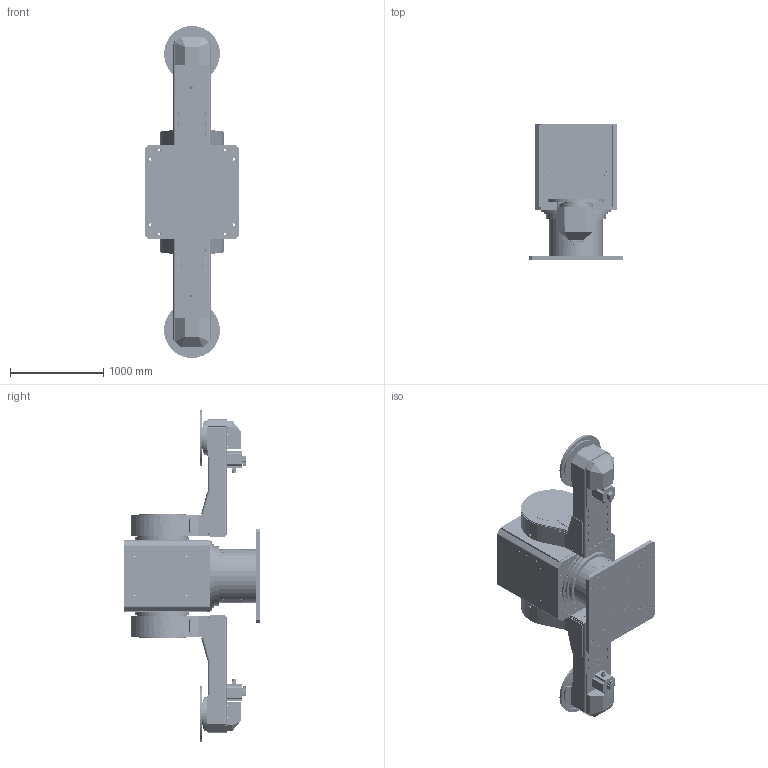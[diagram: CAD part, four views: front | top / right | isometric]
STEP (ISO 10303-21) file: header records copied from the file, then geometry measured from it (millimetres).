
FILE_DESCRIPTION (( 'STEP AP214' ), '1' );
FILE_NAME ('140679red.STEP', '2008-10-27T12:33:57', ( ' ' ), ( ' ' ), 'SwSTEP 2.0', 'SolidWorks 2008', '' );
FILE_SCHEMA (( 'AUTOMOTIVE_DESIGN' ));
Length unit declared in the file: millimetre
Products named in the file (5): L1000red_Standard; 140679red; 126538red_Standard; 141780red_Standard; 141149red_Standard
Assembly tree (6 placements, depth 2):
  140679red
    L1000red_Standard  x2
    141149red_Standard  x2
    141780red_Standard
    126538red_Standard
Bounding box: 1000 x 1464 x 3564.57 mm (x, y, z)
Volume: 129819001.3 mm3; surface area: 33011610.2 mm2
Topology: 40 solids, 84 shells, 4321 faces, 13777 edges, 9377 vertices
Faces by surface type: cylinder 2717, plane 1121, cone 439, torus 30, sphere 14
Entity records: 146140 total; most frequent: CARTESIAN_POINT 25156, DIRECTION 19509, ORIENTED_EDGE 16579, EDGE_CURVE 9975, AXIS2_PLACEMENT_3D 7426, VERTEX_POINT 7132, VECTOR 4657, LINE 4657
